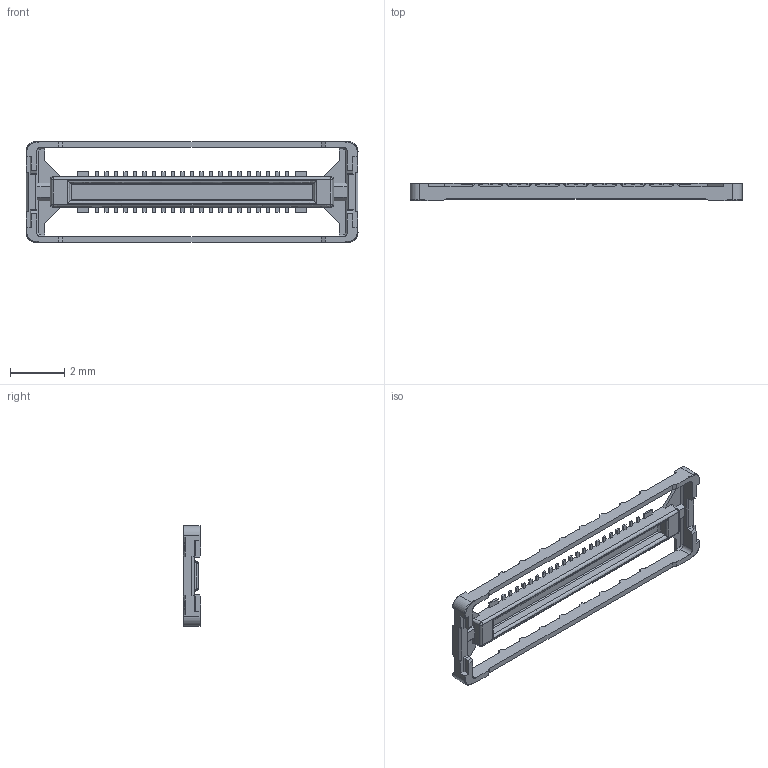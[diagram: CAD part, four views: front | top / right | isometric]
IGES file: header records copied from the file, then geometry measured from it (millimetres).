
Start section: SolidWorks IGES file using analytic representation for surfaces
Bounding box: 12.24 x 0.65 x 3.7 mm (x, y, z)
Surface area: 96.2 mm2 (no closed solid volume)
Topology: 0 solids, 0 shells, 495 faces, 3100 edges, 3096 vertices
Faces by surface type: bspline 391, revolution 104
